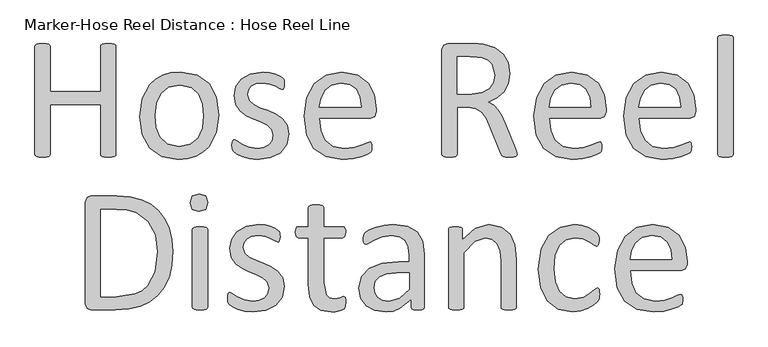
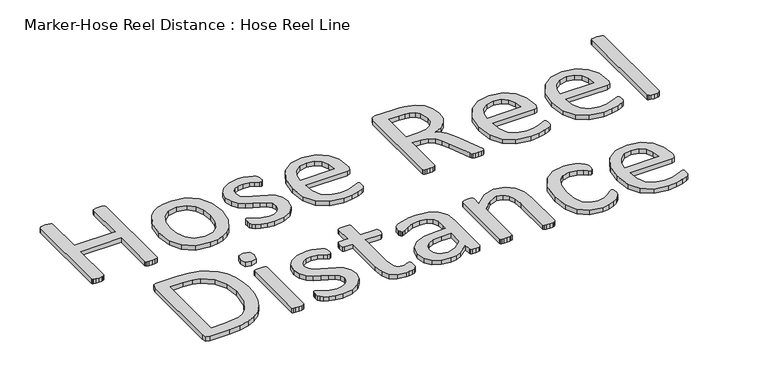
"""IFC4 building model written with IfcOpenShell, lengths in millimetres: proxy geometry, Marker-Hose Reel Distance : Hose Reel Line."""

from ifc_helpers import new_model, si_unit, origin, origin_with_axes, place, context, project, spatial, polyline, outline, extrude, source, transform, mapped, element, save


def marker_hose_reel_distance_hose_reel_line_1106418b(model_context):
    return source(origin(), model_context, "Body", "SweptSolid", [
        extrude(outline(polyline([(3479.0606305, 52.1872573), (3478.4273232, 50.015918), (3476.2258264, 48.5683585), (3472.0339352, 47.6334763), (3465.6103898, 47.2414289), (3458.9757419, 47.6334763), (3454.8743232, 48.538201), (3452.6728264, 49.9857605), (3452.0395191, 52.1269423), (3452.0395191, 139.8852393), (3363.2558675, 139.8852393), (3363.2558675, 52.1269423), (3362.6225602, 49.9857605), (3360.4210634, 48.538201), (3356.2593297, 47.6334763), (3349.7453118, 47.2414289), (3343.2916088, 47.6334763), (3339.0695602, 48.5683585), (3336.8680634, 50.015918), (3336.2347561, 52.1872573), (3336.2347561, 243.0238563), (3336.8680634, 245.1951957), (3339.0695602, 246.6427552), (3343.2916088, 247.5776374), (3349.7453118, 247.9696848), (3356.2593297, 247.5776374), (3360.4210634, 246.6427552), (3362.6225602, 245.1951957), (3363.2558675, 243.0238563), (3363.2558675, 163.0461919), (3452.0395191, 163.0461919), (3452.0395191, 243.0238563), (3452.6728264, 245.1951957), (3454.8743232, 246.6427552), (3458.9757419, 247.5776374), (3465.6103898, 247.9696848), (3472.0339352, 247.5776374), (3476.2258264, 246.6427552), (3478.4273232, 245.1951957), (3479.0606305, 243.0238563), (3479.0606305, 52.1872573)])), origin_with_axes(), (0.0, 0.0, 1.0), 10.0),
        extrude(outline(polyline([(3660.4880925, 122.09232), (3656.0247839, 90.4571126), (3642.6650157, 65.5470256), (3632.6527289, 56.2359004), (3620.4087878, 49.2318233), (3605.985968, 44.8439084), (3589.4370452, 43.3812701), (3559.5811297, 48.538201), (3538.3502565, 63.5264737), (3525.6841106, 87.4112061), (3521.5223769, 119.2575159), (3525.9253705, 150.8927233), (3539.1946663, 175.7726528), (3549.1692562, 185.0460811), (3561.3604217, 191.9973827), (3575.7681627, 196.3400613), (3592.3924793, 197.7876208), (3622.2785522, 192.6306899), (3643.5094254, 177.6424172), (3656.2358864, 153.7576849), (3660.4880925, 122.09232)]), holes=[polyline([(3633.4669811, 120.2828706), (3631.3861143, 141.2423264), (3624.540364, 158.5527258), (3611.6631156, 170.3141471), (3591.3671246, 174.6266682), (3572.0964882, 170.676037), (3558.8271925, 159.5177655), (3551.0767175, 142.448626), (3548.5434883, 120.8860204), (3550.6243551, 99.8059346), (3557.5304204, 82.5558501), (3570.4981413, 70.8547439), (3590.7639748, 66.5422227), (3609.9742961, 70.492854), (3623.3340644, 81.5606529), (3631.0242244, 98.5694775), (3633.4669811, 120.2828706)])]), origin_with_axes(), (0.0, 0.0, 1.0), 10.0),
        extrude(outline(polyline([(3784.013173, 88.4968757), (3780.0022268, 69.2865544), (3768.572538, 55.0823764), (3750.9304061, 46.3367042), (3728.4027608, 43.3812701), (3713.9573229, 44.7685147), (3701.6832243, 48.2969411), (3692.4851898, 52.7602496), (3686.966369, 56.9521408), (3684.4331398, 61.3852919), (3683.6490451, 68.4119871), (3683.95062, 72.9657682), (3684.7347148, 75.9513597), (3686.0616443, 77.6100217), (3687.9917237, 78.122699), (3692.9978671, 75.7100998), (3701.2007045, 70.4023815), (3712.7510233, 65.0946632), (3728.0408709, 62.682064), (3739.8022922, 64.159781), (3748.9400117, 68.5326171), (3754.9111948, 75.8910447), (3756.9920617, 86.4461664), (3754.0064701, 96.4282957), (3746.0750502, 103.6359359), (3735.0072512, 109.1849141), (3722.3411052, 114.2513725), (3709.5844868, 120.2527131), (3698.4262154, 128.4555505), (3690.4947954, 140.0058693), (3687.5092039, 156.1099691), (3690.7058978, 171.9426516), (3700.2959798, 185.2119473), (3716.2794497, 194.3496669), (3738.7166225, 197.7876208), (3749.9352089, 196.7622661), (3760.0681257, 194.168722), (3767.7884432, 190.791083), (3772.6136417, 187.5943891), (3774.784981, 185.3024198), (3775.5690757, 183.3120254), (3776.0515956, 180.5676938), (3776.2928555, 176.5567476), (3776.0515956, 172.1839115), (3775.2675008, 169.138005), (3773.9104138, 167.419028), (3772.1311218, 166.9063507), (3767.9693882, 168.7459576), (3760.9426929, 172.6965888), (3750.8097761, 176.6472201), (3737.5103229, 178.486827), (3725.6885867, 176.948795), (3717.3048043, 172.5759589), (3712.3589759, 165.880996), (3710.6701565, 157.4972137), (3713.8668504, 147.2738244), (3722.2204753, 140.0058693), (3733.951739, 134.3965761), (3747.3416647, 129.2698027), (3760.8220629, 123.3287771), (3772.6136417, 115.3671996), (3780.876794, 104.1184557), (3784.013173, 88.4968757)])), origin_with_axes(), (0.0, 0.0, 1.0), 10.0),
        extrude(outline(polyline([(3938.4195237, 127.7619282), (3935.4339322, 119.2575159), (3928.5881818, 116.7242867), (3838.0553958, 116.7242867), (3840.3172075, 94.4077438), (3847.8264226, 77.3989193), (3861.5179233, 66.4819078), (3882.1456467, 62.682064), (3899.2751012, 64.4613559), (3912.303137, 68.4723021), (3921.3202267, 72.4832483), (3926.6581025, 74.2625403), (3928.5278669, 73.7498629), (3929.8246389, 72.2419884), (3930.4881037, 69.4373418), (3930.6992062, 65.0343482), (3930.5484187, 61.8074967), (3930.1563713, 59.36474), (3929.4024341, 57.4045032), (3928.045347, 55.7458412), (3923.1296761, 52.8205646), (3912.544397, 48.6588309), (3897.4656518, 45.0097746), (3879.1902126, 43.3812701), (3849.7263445, 48.2064686), (3828.4653138, 62.561434), (3815.437278, 86.4763239), (3811.0342844, 119.8606657), (3815.6483804, 152.4307553), (3828.9478337, 176.9186375), (3849.937447, 192.38943), (3877.5013932, 197.7876208), (3905.2462843, 192.570375), (3924.0947158, 178.5169845), (3934.9514123, 157.7987886), (3938.4195237, 132.4061817), (3938.4195237, 127.7619282)]), holes=[polyline([(3911.3984123, 136.0250805), (3909.4457148, 153.7350668), (3902.7432126, 167.1777681), (3891.4567718, 175.6595622), (3875.7522587, 178.486827), (3859.6783164, 174.9885581), (3848.1279975, 165.6698936), (3840.9203574, 152.1291804), (3838.0553958, 136.0250805), (3911.3984123, 136.0250805)])]), origin_with_axes(), (0.0, 0.0, 1.0), 10.0),
        extrude(outline(polyline([(4186.7362994, 52.1269423), (4186.283937, 50.015918), (4184.2935426, 48.477886), (4179.950864, 47.5430038), (4172.5019639, 47.2414289), (4165.9577885, 47.5430038), (4161.8563698, 48.538201), (4159.4739281, 50.4381229), (4158.0263685, 53.5141869), (4139.6302994, 99.9567221), (4132.965494, 114.4926324), (4124.8832866, 125.9223213), (4113.8758026, 133.3712214), (4098.6161125, 136.0250805), (4081.2453981, 136.0250805), (4081.2453981, 52.1269423), (4080.5517758, 49.9857605), (4078.350279, 48.538201), (4074.2488603, 47.6334763), (4067.7348424, 47.2414289), (4061.2208245, 47.6334763), (4057.0590908, 48.5683585), (4054.857594, 50.015918), (4054.2242867, 52.1872573), (4054.2242867, 237.1733032), (4057.3305082, 245.587243), (4063.9953136, 247.9696848), (4105.8539102, 247.9696848), (4118.2184813, 247.5776374), (4127.1450984, 246.7030702), (4147.3204595, 240.3699972), (4162.0373148, 229.3323557), (4170.9337744, 214.0123506), (4173.8892085, 195.0131317), (4171.2655068, 176.9186375), (4163.6658192, 162.7747745), (4151.7536105, 152.1593379), (4136.1923455, 144.5294928), (4145.1792776, 139.0709871), (4152.6884927, 131.1697246), (4159.2326682, 120.5844455), (4165.4451112, 107.0738898), (4183.3586604, 63.3455288), (4186.1331496, 55.6252112), (4186.7362994, 52.1269423)]), holes=[polyline([(4146.8680971, 192.1180126), (4141.7111662, 211.4791214), (4134.7975616, 218.2796355), (4124.3706093, 222.8786528), (4115.805882, 224.3563698), (4103.260366, 224.8087322), (4081.2453981, 224.8087322), (4081.2453981, 159.1860331), (4106.7586349, 159.1860331), (4124.6118692, 161.6589473), (4137.1573852, 168.5951701), (4144.5158129, 179.0598193), (4146.8680971, 192.1180126)])]), origin_with_axes(), (0.0, 0.0, 1.0), 10.0),
        extrude(outline(polyline([(4343.7361942, 127.7619282), (4340.7506027, 119.2575159), (4333.9048523, 116.7242867), (4243.3720663, 116.7242867), (4245.633878, 94.4077438), (4253.1430931, 77.3989193), (4266.8345938, 66.4819078), (4287.4623172, 62.682064), (4304.5917717, 64.4613559), (4317.6198075, 68.4723021), (4326.6368972, 72.4832483), (4331.974773, 74.2625403), (4333.8445374, 73.7498629), (4335.1413094, 72.2419884), (4335.8047742, 69.4373418), (4336.0158767, 65.0343482), (4335.8650892, 61.8074967), (4335.4730418, 59.36474), (4334.7191046, 57.4045032), (4333.3620175, 55.7458412), (4328.4463466, 52.8205646), (4317.8610675, 48.6588309), (4302.7823223, 45.0097746), (4284.5068831, 43.3812701), (4255.043015, 48.2064686), (4233.7819843, 62.561434), (4220.7539485, 86.4763239), (4216.3509549, 119.8606657), (4220.9650509, 152.4307553), (4234.2645042, 176.9186375), (4255.2541175, 192.38943), (4282.8180637, 197.7876208), (4310.5629548, 192.570375), (4329.4113863, 178.5169845), (4340.2680828, 157.7987886), (4343.7361942, 132.4061817), (4343.7361942, 127.7619282)]), holes=[polyline([(4316.7150828, 136.0250805), (4314.7623853, 153.7350668), (4308.0598831, 167.1777681), (4296.7734423, 175.6595622), (4281.0689292, 178.486827), (4264.9949869, 174.9885581), (4253.444668, 165.6698936), (4246.2370279, 152.1291804), (4243.3720663, 136.0250805), (4316.7150828, 136.0250805)])]), origin_with_axes(), (0.0, 0.0, 1.0), 10.0),
        extrude(outline(polyline([(4502.0027036, 127.7619282), (4499.0171121, 119.2575159), (4492.1713618, 116.7242867), (4401.6385757, 116.7242867), (4403.9003875, 94.4077438), (4411.4096026, 77.3989193), (4425.1011032, 66.4819078), (4445.7288266, 62.682064), (4462.8582811, 64.4613559), (4475.886317, 68.4723021), (4484.9034066, 72.4832483), (4490.2412824, 74.2625403), (4492.1110468, 73.7498629), (4493.4078189, 72.2419884), (4494.0712837, 69.4373418), (4494.2823861, 65.0343482), (4494.1315987, 61.8074967), (4493.7395513, 59.36474), (4492.985614, 57.4045032), (4491.628527, 55.7458412), (4486.712856, 52.8205646), (4476.1275769, 48.6588309), (4461.0488317, 45.0097746), (4442.7733926, 43.3812701), (4413.3095245, 48.2064686), (4392.0484938, 62.561434), (4379.0204579, 86.4763239), (4374.6174643, 119.8606657), (4379.2315604, 152.4307553), (4392.5310136, 176.9186375), (4413.5206269, 192.38943), (4441.0845731, 197.7876208), (4468.8294642, 192.570375), (4487.6778957, 178.5169845), (4498.5345922, 157.7987886), (4502.0027036, 132.4061817), (4502.0027036, 127.7619282)]), holes=[polyline([(4474.9815923, 136.0250805), (4473.0288948, 153.7350668), (4466.3263925, 167.1777681), (4455.0399518, 175.6595622), (4439.3354387, 178.486827), (4423.2614963, 174.9885581), (4411.7111775, 165.6698936), (4404.5035373, 152.1291804), (4401.6385757, 136.0250805), (4474.9815923, 136.0250805)])]), origin_with_axes(), (0.0, 0.0, 1.0), 10.0),
        extrude(outline(polyline([(4567.6254027, 52.0063124), (4566.9619379, 49.955603), (4564.8207561, 48.477886), (4560.7494949, 47.5430038), (4554.054532, 47.2414289), (4547.4801991, 47.5430038), (4543.3184654, 48.477886), (4541.1772836, 49.955603), (4540.6042913, 52.0063124), (4540.6042913, 258.4644914), (4541.1772836, 260.6358307), (4543.3184654, 262.1738627), (4547.4801991, 263.1087449), (4554.054532, 263.4103198), (4560.7494949, 263.1087449), (4564.8207561, 262.1738627), (4566.9619379, 260.6358307), (4567.6254027, 258.4644914), (4567.6254027, 52.0063124)])), origin_with_axes(), (0.0, 0.0, 1.0), 10.0),
        extrude(outline(polyline([(3579.4247584, -118.9218669), (3577.7585571, -143.3343554), (3572.759953, -164.4596774), (3564.5571156, -182.2676754), (3553.2782143, -196.7281921), (3539.0137213, -207.9090816), (3521.8541093, -215.8781984), (3501.4601064, -220.6506213), (3477.492441, -222.2414289), (3434.9703796, -222.2414289), (3428.1849442, -219.8288297), (3425.0184077, -211.3847324), (3425.0184077, -32.3698696), (3428.1849442, -23.9257723), (3434.9703796, -21.513173), (3480.447875, -21.513173), (3504.4909342, -23.2019925), (3524.5079684, -28.2684509), (3541.0568913, -36.4939064), (3554.6956163, -47.6597172), (3565.4015254, -61.637714), (3573.1520004, -78.2997274), (3577.8565689, -97.4572731), (3579.4247584, -118.9218669)]), holes=[polyline([(3552.403647, -120.1281665), (3548.3323858, -90.1516211), (3535.6059249, -66.1462588), (3513.6512719, -50.3437338), (3498.4443574, -46.0915277), (3479.4225203, -44.6741256), (3452.0395191, -44.6741256), (3452.0395191, -199.0804763), (3479.7240953, -199.0804763), (3512.3846573, -194.3155928), (3524.5833622, -188.2916341), (3534.5805702, -179.749525), (3547.9403385, -155.1410128), (3552.403647, -120.1281665)])]), origin_with_axes(), (0.0, 0.0, 1.0), 10.0),
        extrude(outline(polyline([(3641.1872987, -32.9127044), (3637.8699747, -45.2471179), (3625.5657187, -48.5342844), (3613.5630375, -45.3375904), (3610.3060285, -33.2745943), (3613.6233525, -20.9401807), (3625.9276085, -17.6530143), (3637.9302897, -20.8497082), (3641.1872987, -32.9127044)])), origin_with_axes(), (0.0, 0.0, 1.0), 10.0),
        extrude(outline(polyline([(3641.1872987, -217.5368604), (3640.5238339, -219.5875697), (3638.3826521, -221.0351293), (3634.3113909, -221.939854), (3627.616428, -222.2414289), (3621.0420951, -221.939854), (3616.8803614, -221.0351293), (3614.7391796, -219.5875697), (3614.1661873, -217.5368604), (3614.1661873, -80.2599643), (3614.7391796, -78.2997274), (3616.8803614, -76.7616954), (3621.0420951, -75.8569707), (3627.616428, -75.5553958), (3634.3113909, -75.8569707), (3638.3826521, -76.7616954), (3640.5238339, -78.2997274), (3641.1872987, -80.2599643), (3641.1872987, -217.5368604)])), origin_with_axes(), (0.0, 0.0, 1.0), 10.0),
        extrude(outline(polyline([(3776.2928555, -180.9859821), (3772.2819093, -200.1963034), (3760.8522204, -214.4004814), (3743.2100886, -223.1461536), (3720.6824433, -226.1015877), (3706.2370054, -224.7143431), (3693.9629068, -221.1859167), (3684.7648722, -216.7226082), (3679.2460515, -212.530717), (3676.7128223, -208.0975659), (3675.9287276, -201.0708707), (3676.2303025, -196.5170896), (3677.0143972, -193.5314981), (3678.3413268, -191.8728361), (3680.2714062, -191.3601588), (3685.2775496, -193.772758), (3693.480387, -199.0804763), (3705.0307058, -204.3881946), (3720.3205534, -206.8007938), (3732.0819746, -205.3230768), (3741.2196942, -200.9502407), (3747.1908773, -193.5918131), (3749.2717441, -183.0366914), (3746.2861526, -173.0545621), (3738.3547326, -165.8469219), (3727.2869337, -160.2979437), (3714.6207877, -155.2314853), (3701.8641693, -149.2301447), (3690.7058978, -141.0273073), (3682.7744779, -129.4769885), (3679.7888863, -113.3728887), (3682.9855803, -97.5402062), (3692.5756622, -84.2709105), (3708.5591321, -75.1331909), (3730.996305, -71.695237), (3742.2148914, -72.7205917), (3752.3478081, -75.3141358), (3760.0681257, -78.6917748), (3764.8933241, -81.8884687), (3767.0646634, -84.180438), (3767.8487582, -86.1708324), (3768.331278, -88.915164), (3768.572538, -92.9261102), (3768.331278, -97.2989463), (3767.5471833, -100.3448528), (3766.1900962, -102.0638298), (3764.4108043, -102.5765071), (3760.2490706, -100.7369002), (3753.2223754, -96.786269), (3743.0894586, -92.8356377), (3729.7900054, -90.9960308), (3717.9682691, -92.5340628), (3709.5844868, -96.9068989), (3704.6386584, -103.6018618), (3702.9498389, -111.9856441), (3706.1465329, -122.2090334), (3714.5001577, -129.4769885), (3726.2314215, -135.0862817), (3739.6213472, -140.2130551), (3753.1017454, -146.1540807), (3764.8933241, -154.1156582), (3773.1564765, -165.3644021), (3776.2928555, -180.9859821)])), origin_with_axes(), (0.0, 0.0, 1.0), 10.0),
        extrude(outline(polyline([(3884.377301, -208.3689833), (3883.7741512, -215.9083559), (3881.9345442, -220.0097746), (3878.2553304, -222.4826888), (3872.6761947, -224.3826107), (3866.0113893, -225.6190678), (3858.9846941, -226.1015877), (3840.6187824, -223.1763111), (3828.1034239, -214.3401664), (3820.9862562, -199.3518937), (3818.7546019, -177.9099181), (3818.7546019, -94.8561896), (3800.4188478, -94.8561896), (3796.8904214, -92.5943778), (3795.5936493, -85.2661077), (3795.9555392, -80.7726416), (3796.8904214, -77.7267351), (3798.4284534, -76.0379156), (3800.5394778, -75.5553958), (3818.7546019, -75.5553958), (3818.7546019, -41.9599515), (3819.3275942, -39.9393996), (3821.4687761, -38.2807377), (3825.6305097, -37.255383), (3832.2048426, -36.9538081), (3838.8998055, -37.255383), (3842.9710667, -38.2807377), (3845.1122485, -39.9393996), (3845.7757133, -41.9599515), (3845.7757133, -75.5553958), (3879.5521025, -75.5553958), (3881.5726544, -76.0379156), (3883.1106864, -77.7267351), (3884.0757261, -80.7726416), (3884.377301, -85.2661077), (3883.0503714, -92.5943778), (3879.5521025, -94.8561896), (3845.7757133, -94.8561896), (3845.7757133, -173.5069245), (3849.7866595, -195.4917349), (3855.3884134, -201.07841), (3864.1717824, -202.9406351), (3870.173123, -202.2470128), (3874.847534, -200.7994533), (3878.3759604, -199.3217362), (3880.999662, -198.5979565), (3883.4122613, -200.4677209), (3884.0757261, -203.4834699), (3884.377301, -208.3689833)])), origin_with_axes(), (0.0, 0.0, 1.0), 10.0),
        extrude(outline(polyline([(4023.3430166, -217.5971754), (4022.016087, -220.401822), (4018.3971881, -221.7890665), (4011.6419103, -222.2414289), (4004.79616, -221.7890665), (4001.0867887, -220.401822), (3999.940804, -217.5971754), (3999.940804, -203.7247298), (3979.6146555, -219.7685147), (3968.0643367, -224.5183194), (3955.8505531, -226.1015877), (3935.916452, -223.2366261), (3920.7472343, -214.9433162), (3911.006365, -201.6137055), (3907.5382536, -183.6398412), (3912.3332945, -163.1930628), (3926.0851101, -148.7777824), (3948.0096056, -140.1828976), (3977.2020563, -137.317936), (3996.3219052, -137.317936), (3996.3219052, -125.7977747), (3994.6330857, -110.7190295), (3989.2047375, -99.802018), (3979.5241831, -93.2276851), (3964.8978002, -90.9960308), (3948.1603931, -93.4086301), (3935.1926722, -98.7163484), (3925.8740077, -104.0240667), (3920.3250295, -106.4366659), (3918.1536902, -105.8033586), (3916.5553432, -103.8732792), (3915.560146, -100.5559553), (3915.2585711, -96.1228042), (3915.8014059, -89.7897312), (3918.4552651, -85.3565801), (3925.6930628, -80.8329566), (3937.514799, -76.369648), (3952.1411818, -73.0221666), (3968.1548092, -71.695237), (3993.788676, -75.1030334), (4010.887973, -85.0550052), (4020.3875825, -101.3098925), (4023.3430166, -123.9883253), (4023.3430166, -217.5971754)]), holes=[polyline([(3996.3219052, -156.6187299), (3974.8497721, -156.6187299), (3956.9362228, -158.3980218), (3944.3002343, -163.6454251), (3936.9116492, -171.9688925), (3934.5593649, -183.1573214), (3936.2481844, -192.8981908), (3941.3146428, -200.4074059), (3949.4270077, -205.2024468), (3960.2535467, -206.8007938), (3978.5893009, -201.704178), (3996.3219052, -186.1127554), (3996.3219052, -156.6187299)])]), origin_with_axes(), (0.0, 0.0, 1.0), 10.0),
        extrude(outline(polyline([(4185.4696848, -217.4765454), (4184.80622, -219.5272548), (4182.6650382, -221.0049718), (4178.593777, -221.939854), (4172.0194441, -222.2414289), (4165.3244812, -221.939854), (4161.25322, -221.0351293), (4159.1120382, -219.5875697), (4158.4485734, -217.4765454), (4158.4485734, -136.8957312), (4156.6692815, -117.9568272), (4151.5123506, -105.5620987), (4142.7365209, -97.6005212), (4130.2814774, -94.8561896), (4111.9758807, -101.58131), (4092.8258744, -121.3344661), (4092.8258744, -217.4765454), (4092.1624096, -219.5875697), (4090.0212278, -221.0351293), (4085.9499666, -221.939854), (4079.2550037, -222.2414289), (4072.6806708, -221.939854), (4068.5189371, -221.0351293), (4066.3777553, -219.5875697), (4065.804763, -217.5368604), (4065.804763, -80.2599643), (4066.2872828, -78.2092549), (4068.2475197, -76.7013804), (4072.017206, -75.7966557), (4078.1090191, -75.5553958), (4084.0802022, -75.7966557), (4087.759416, -76.7013804), (4089.6593379, -78.2092549), (4090.2323302, -80.2599643), (4090.2323302, -98.4147735), (4113.3028103, -78.1187824), (4136.4939204, -71.695237), (4159.5342431, -76.3998055), (4174.6733032, -88.975479), (4182.9666131, -107.4017056), (4185.4696848, -132.7943125), (4185.4696848, -217.4765454)])), origin_with_axes(), (0.0, 0.0, 1.0), 10.0),
        extrude(outline(polyline([(4332.1557179, -194.4965378), (4332.0049304, -198.7185864), (4331.4620956, -201.7343355), (4330.5573709, -204.1770922), (4328.1447717, -207.795991), (4321.6609113, -213.6767016), (4311.377207, -219.9193021), (4298.9824785, -224.3826107), (4285.1100329, -226.1015877), (4258.9333313, -221.0954443), (4239.8436399, -206.4690614), (4228.1123761, -182.885904), (4224.0712724, -150.6475468), (4229.0171009, -114.9109207), (4242.557814, -90.453196), (4262.7934901, -76.309333), (4288.005152, -71.695237), (4300.7316129, -73.0523241), (4312.0708293, -76.6109079), (4321.2990214, -81.6773663), (4327.1495745, -86.5930372), (4329.6526462, -89.8198887), (4330.7986308, -92.3832754), (4331.4017806, -95.5498119), (4331.5525681, -99.982963), (4330.195481, -108.0048554), (4326.9083146, -110.2968247), (4321.6910687, -107.8842254), (4314.2421686, -102.5765071), (4303.2949996, -97.2687888), (4288.1860969, -94.8561896), (4272.3157176, -98.3544585), (4260.6523082, -108.8492651), (4253.4823649, -126.0088771), (4251.0923838, -149.5015621), (4253.565298, -172.8434597), (4260.8634107, -189.6110243), (4272.7153044, -199.6534686), (4288.7892468, -202.9406351), (4303.8378344, -199.8947285), (4315.0564209, -193.1997657), (4323.0481558, -186.5952753), (4328.1146142, -183.6398412), (4329.8939061, -184.2128336), (4331.1906782, -186.1429129), (4331.9446155, -189.5808668), (4332.1557179, -194.4965378)])), origin_with_axes(), (0.0, 0.0, 1.0), 10.0),
        extrude(outline(polyline([(4486.5620686, -141.7209296), (4483.576477, -150.2253419), (4476.7307267, -152.7585711), (4386.1979406, -152.7585711), (4388.4597524, -175.075114), (4395.9689675, -192.0839385), (4409.6604681, -203.00095), (4430.2881915, -206.8007938), (4447.4176461, -205.0215019), (4460.4456819, -201.0105557), (4469.4627715, -196.9996095), (4474.8006473, -195.2203175), (4476.6704117, -195.7329949), (4477.9671838, -197.2408694), (4478.6306486, -200.045516), (4478.841751, -204.4485096), (4478.6909636, -207.6753611), (4478.2989162, -210.1181178), (4477.5449789, -212.0783546), (4476.1878919, -213.7370166), (4471.272221, -216.6622932), (4460.6869418, -220.8240269), (4445.6081967, -224.4730832), (4427.3327575, -226.1015877), (4397.8688894, -221.2763892), (4376.6078587, -206.9214238), (4363.5798229, -183.0065339), (4359.1768293, -149.6221921), (4363.7909253, -117.0521025), (4377.0903785, -92.5642203), (4398.0799918, -77.0934278), (4425.643938, -71.695237), (4453.3888292, -76.9124828), (4472.2372606, -90.9658733), (4483.0939572, -111.6840692), (4486.5620686, -137.0766761), (4486.5620686, -141.7209296)]), holes=[polyline([(4459.5409572, -133.4577773), (4457.5882597, -115.747791), (4450.8857575, -102.3050897), (4439.5993167, -93.8232956), (4423.8948036, -90.9960308), (4407.8208612, -94.4942997), (4396.2705424, -103.8129642), (4389.0629022, -117.3536774), (4386.1979406, -133.4577773), (4459.5409572, -133.4577773)])]), origin_with_axes(), (0.0, 0.0, 1.0), 10.0),
    ])


if __name__ == "__main__":
    model = new_model("IFC4")
    model_context = context("Model", 3, world=origin())
    ifc_project = project(units=[si_unit("LENGTHUNIT", "METRE", prefix="MILLI")], contexts=[model_context])
    site = spatial("IfcSite", under=ifc_project)
    building = spatial("IfcBuilding", under=site)
    placement = place(None, origin())
    marker_hose_reel_distance_hose_reel_line_shape = marker_hose_reel_distance_hose_reel_line_1106418b(model_context)
    element("IfcBuildingElementProxy", 1, Name="Marker-Hose Reel Distance : Hose Reel Line", ObjectType="Marker-Hose Reel Distance : Hose Reel Line", at=placement, inside=building, context=model_context, shape_type="MappedRepresentation", body=[
        mapped(marker_hose_reel_distance_hose_reel_line_shape, transform((0.0, 0.0, 0.0), x_axis=(1.0, 0.0, 0.0), y_axis=(0.0, 1.0, 0.0), z_axis=(0.0, 0.0, 1.0))),
    ])
    save(model, "model.ifc")
